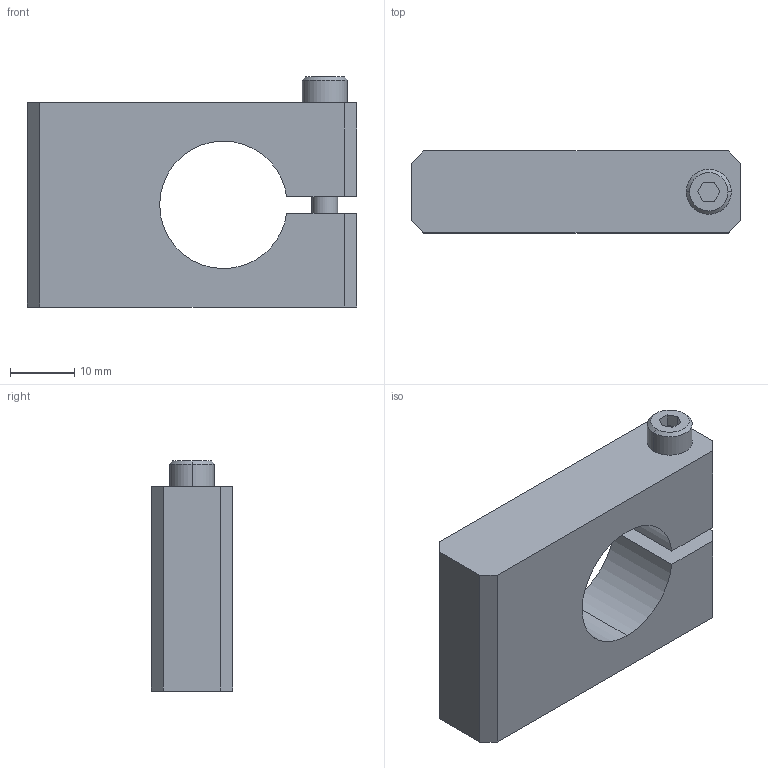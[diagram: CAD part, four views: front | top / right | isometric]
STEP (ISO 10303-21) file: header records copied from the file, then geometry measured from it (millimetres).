
FILE_DESCRIPTION (( 'STEP AP214' ), '1' );
FILE_NAME ('RTI-ANF-20.STEP', '2013-10-18T13:12:27', ( 'user' ), ( '' ), 'SwSTEP 2.0', 'SolidWorks 2009', '' );
FILE_SCHEMA (( 'AUTOMOTIVE_DESIGN' ));
Length unit declared in the file: inch
Products named in the file (3): RTI-ANF-20; M4 S.H.C.S._M4x30mm
Assembly tree (2 placements, depth 2):
  RTI-ANF-20
    RTI-ANF-20
    M4 S.H.C.S._M4x30mm
Bounding box: 51.18 x 12.7 x 35.75 mm (x, y, z)
Volume: 16247 mm3; surface area: 6435.6 mm2
Topology: 2 solids, 2 shells, 282 faces, 722 edges, 480 vertices
Faces by surface type: plane 185, bspline 82, cylinder 11, cone 4
Entity records: 16527 total; most frequent: CARTESIAN_POINT 7075, ORIENTED_EDGE 1444, DIRECTION 994, EDGE_CURVE 722, LINE 532, VECTOR 532, VERTEX_POINT 480, EDGE_LOOP 322
